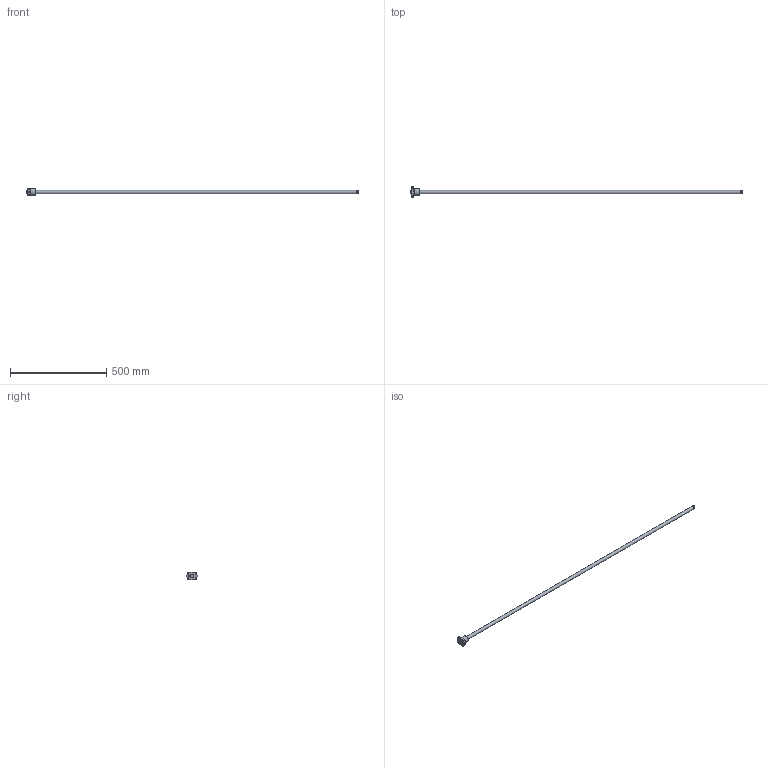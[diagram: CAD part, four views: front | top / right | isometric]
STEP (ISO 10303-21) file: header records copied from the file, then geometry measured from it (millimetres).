
FILE_DESCRIPTION( ( 'STEP AP203' ), ' ' );
FILE_NAME( 'p:/temp/worker_12/2884_3592/app_49_12018011810393992242540818fa3fd_000000_00_00_000000/format_0/BTK 1605V-2.6ZZ+1721LT_16610.stp', '2018-01-18T09:39:40', ( '' ), ( '' ), ' ', 'PARTsolutions', ' ' );
FILE_SCHEMA( ( 'CONFIG_CONTROL_DESIGN' ) );
Length unit declared in the file: millimetre
Products named in the file (3): BTK 1605V-2.6ZZ+1721LT_16610; _BTK 1605V-2.61661 Shaft; _BTK 1605V-2.6ZZ Nut
Assembly tree (2 placements, depth 2):
  BTK 1605V-2.6ZZ+1721LT_16610
    _BTK 1605V-2.61661 Shaft
    _BTK 1605V-2.6ZZ Nut
Bounding box: 1721 x 54 x 40 mm (x, y, z)
Volume: 382127.6 mm3; surface area: 98436 mm2
Topology: 2 solids, 2 shells, 39 faces, 84 edges, 55 vertices
Faces by surface type: cylinder 17, plane 14, cone 8
Full cylindrical faces by diameter (mm): 4.5 x4, 4.917 x1, 12.8 x2, 16 x4, 19.2 x2, 30.6 x1, 34 x1
Entity records: 1196 total; most frequent: CARTESIAN_POINT 297, DIRECTION 174, ORIENTED_EDGE 122, AXIS2_PLACEMENT_3D 82, EDGE_LOOP 76, EDGE_CURVE 61, FACE_OUTER_BOUND 54, VERTEX_POINT 51
